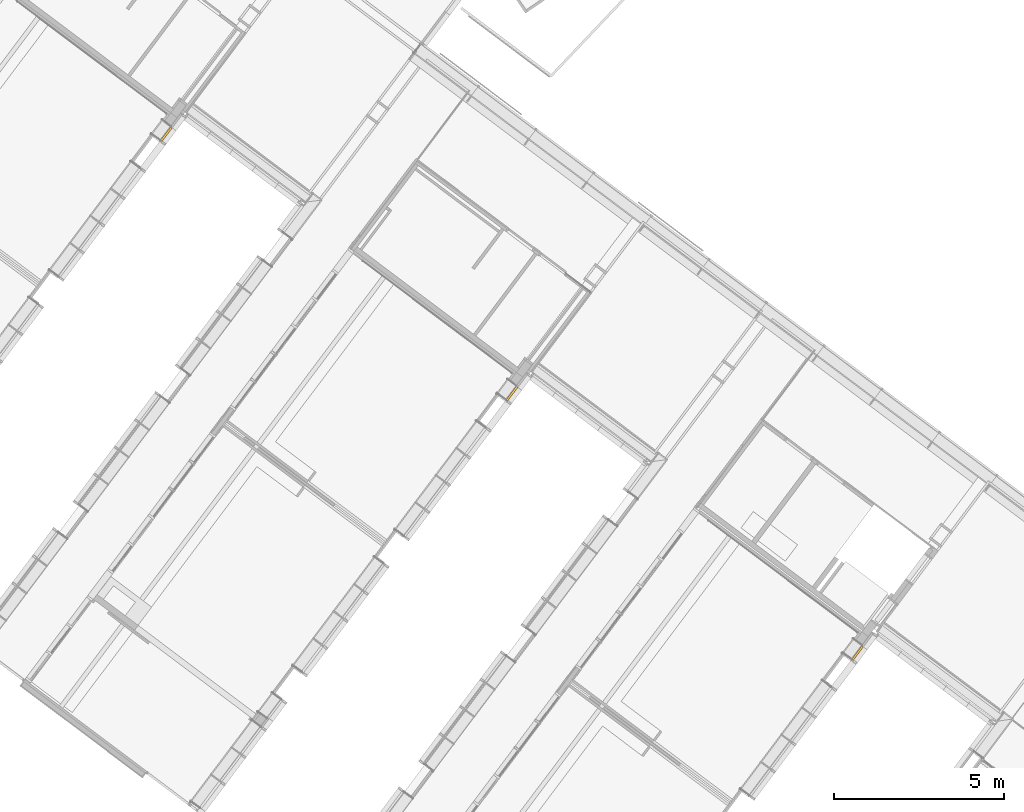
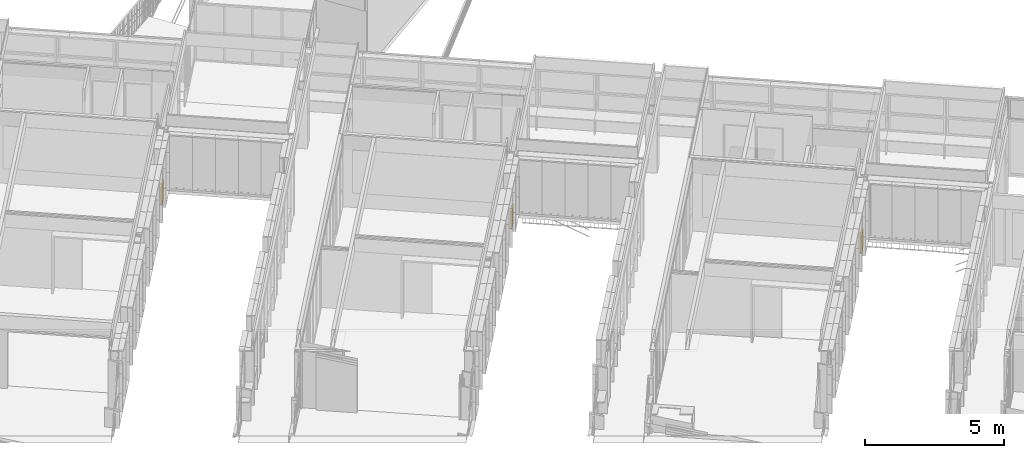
# One storey, part 215 of 243: 3 windows, 3 elements without a shape of their own.
"""IFC2X3 building model written with IfcOpenShell, lengths in metres."""

from ifc_helpers import new_model, entity, si_unit, converted_unit, derived_unit, direction, frame, origin, place, context, subcontext, project, spatial, faceted_brep, source, transform, mapped, material, material_list, type_object, type_shapes, element, aggregate, save


model = new_model("IFC2X3")

# Units and contexts
model_context = context("Model", 3, precision=1e-05, world=origin(), true_north=direction((6.123031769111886e-17, 1.0)))
body_context = subcontext(model_context, "Body", "Model", "MODEL_VIEW")
ifc_project = project(units=[si_unit("LENGTHUNIT", "METRE"), si_unit("AREAUNIT", "SQUARE_METRE"), si_unit("VOLUMEUNIT", "CUBIC_METRE"), converted_unit("PLANEANGLEUNIT", "DEGREE", entity("IfcRatioMeasure", 0.017453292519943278), si_unit("PLANEANGLEUNIT", "RADIAN"), dimensions=[0, 0, 0, 0, 0, 0, 0]), si_unit("MASSUNIT", "GRAM", prefix="KILO"), derived_unit("MASSDENSITYUNIT", [(si_unit("MASSUNIT", "GRAM", prefix="KILO"), 1), (si_unit("LENGTHUNIT", "METRE"), -3)]), derived_unit("IONCONCENTRATIONUNIT", [(si_unit("MASSUNIT", "GRAM", prefix="KILO"), 1), (si_unit("LENGTHUNIT", "METRE"), -3)]), derived_unit("MOMENTOFINERTIAUNIT", [(si_unit("LENGTHUNIT", "METRE"), 4)]), si_unit("TIMEUNIT", "SECOND"), si_unit("FREQUENCYUNIT", "HERTZ"), si_unit("THERMODYNAMICTEMPERATUREUNIT", "DEGREE_CELSIUS"), derived_unit("THERMALTRANSMITTANCEUNIT", [(si_unit("MASSUNIT", "GRAM", prefix="KILO"), 1), (si_unit("THERMODYNAMICTEMPERATUREUNIT", "KELVIN"), -1), (si_unit("TIMEUNIT", "SECOND"), -3)]), derived_unit("THERMALCONDUCTANCEUNIT", [(si_unit("MASSUNIT", "GRAM", prefix="KILO"), 1), (si_unit("THERMODYNAMICTEMPERATUREUNIT", "KELVIN"), -1), (si_unit("TIMEUNIT", "SECOND"), -3), (si_unit("LENGTHUNIT", "METRE"), 1)]), derived_unit("VOLUMETRICFLOWRATEUNIT", [(si_unit("LENGTHUNIT", "METRE"), 3), (si_unit("TIMEUNIT", "SECOND"), -1)]), derived_unit("MASSFLOWRATEUNIT", [(si_unit("MASSUNIT", "GRAM", prefix="KILO"), 1), (si_unit("TIMEUNIT", "SECOND"), -1)]), derived_unit("ROTATIONALFREQUENCYUNIT", [(si_unit("TIMEUNIT", "SECOND"), -1)]), si_unit("ELECTRICCURRENTUNIT", "AMPERE"), si_unit("ELECTRICVOLTAGEUNIT", "VOLT"), si_unit("POWERUNIT", "WATT"), si_unit("FORCEUNIT", "NEWTON", prefix="KILO"), si_unit("ILLUMINANCEUNIT", "LUX"), si_unit("LUMINOUSFLUXUNIT", "LUMEN"), si_unit("LUMINOUSINTENSITYUNIT", "CANDELA"), derived_unit("USERDEFINED", [(si_unit("MASSUNIT", "GRAM", prefix="KILO"), -1), (si_unit("LENGTHUNIT", "METRE"), -2), (si_unit("TIMEUNIT", "SECOND"), 3), (si_unit("LUMINOUSFLUXUNIT", "LUMEN"), 1)]), derived_unit("USERDEFINED", [(si_unit("MASSUNIT", "GRAM", prefix="KILO"), 1), (si_unit("TIMEUNIT", "SECOND"), -3), (si_unit("LENGTHUNIT", "METRE"), 3), (si_unit("ELECTRICCURRENTUNIT", "AMPERE"), -2)]), derived_unit("SOUNDPOWERUNIT", [(si_unit("MASSUNIT", "GRAM", prefix="KILO"), 1), (si_unit("TIMEUNIT", "SECOND"), -3), (si_unit("LENGTHUNIT", "METRE"), 2)]), derived_unit("SOUNDPRESSUREUNIT", [(si_unit("MASSUNIT", "GRAM", prefix="KILO"), 1), (si_unit("LENGTHUNIT", "METRE"), -1), (si_unit("TIMEUNIT", "SECOND"), -2)]), derived_unit("LINEARVELOCITYUNIT", [(si_unit("LENGTHUNIT", "METRE"), 1), (si_unit("TIMEUNIT", "SECOND"), -1)]), si_unit("PRESSUREUNIT", "PASCAL"), derived_unit("USERDEFINED", [(si_unit("MASSUNIT", "GRAM", prefix="KILO"), 1), (si_unit("LENGTHUNIT", "METRE"), -2), (si_unit("TIMEUNIT", "SECOND"), -2)]), derived_unit("LINEARFORCEUNIT", [(si_unit("MASSUNIT", "GRAM", prefix="KILO"), 1), (si_unit("TIMEUNIT", "SECOND"), -2)]), derived_unit("PLANARFORCEUNIT", [(si_unit("MASSUNIT", "GRAM", prefix="KILO"), 1), (si_unit("LENGTHUNIT", "METRE"), -1), (si_unit("TIMEUNIT", "SECOND"), -2)]), derived_unit("SPECIFICHEATCAPACITYUNIT", [(si_unit("THERMODYNAMICTEMPERATUREUNIT", "KELVIN"), -1), (si_unit("LENGTHUNIT", "METRE"), 2), (si_unit("TIMEUNIT", "SECOND"), -2)]), derived_unit("HEATINGVALUEUNIT", [(si_unit("LENGTHUNIT", "METRE"), 2), (si_unit("TIMEUNIT", "SECOND"), -2)]), derived_unit("VAPORPERMEABILITYUNIT", [(si_unit("LENGTHUNIT", "METRE"), -1), (si_unit("TIMEUNIT", "SECOND"), 1)]), derived_unit("DYNAMICVISCOSITYUNIT", [(si_unit("MASSUNIT", "GRAM", prefix="KILO"), 1), (si_unit("TIMEUNIT", "SECOND"), -1), (si_unit("LENGTHUNIT", "METRE"), -1)]), derived_unit("THERMALEXPANSIONCOEFFICIENTUNIT", [(si_unit("THERMODYNAMICTEMPERATUREUNIT", "KELVIN"), -1)]), derived_unit("MODULUSOFELASTICITYUNIT", [(si_unit("MASSUNIT", "GRAM", prefix="KILO"), 1), (si_unit("LENGTHUNIT", "METRE"), -1), (si_unit("TIMEUNIT", "SECOND"), -2)]), derived_unit("ISOTHERMALMOISTURECAPACITYUNIT", [(si_unit("LENGTHUNIT", "METRE"), 3), (si_unit("MASSUNIT", "GRAM", prefix="KILO"), -1)]), derived_unit("MOISTUREDIFFUSIVITYUNIT", [(si_unit("TIMEUNIT", "SECOND"), -1), (si_unit("LENGTHUNIT", "METRE"), 2)])], contexts=[model_context])

# Site, building, storey
site_placement = place(None, frame((0.0, 0.0, 235.0), z_axis=(0.0, 0.0, 1.0), x_axis=(-0.7996477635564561, 0.6004693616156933, 0.0)))
site = spatial("IfcSite", under=ifc_project, at=site_placement, Name="Default", CompositionType="ELEMENT")
building_placement = place(site_placement, origin())
building = spatial("IfcBuilding", under=site, at=building_placement, CompositionType="ELEMENT")
storey_placement = place(building_placement, origin())
storey = spatial("IfcBuildingStorey", under=building, at=storey_placement, Name="P0- Escola", CompositionType="ELEMENT", Elevation=0.0)

# Curtain wall, window
curtain_wall_type = type_object("IfcCurtainWallType", Name="Muro cortina:MC- EXT- MC2", PredefinedType="NOTDEFINED")
curtain_wall_1_placement = place(storey_placement, origin())
curtain_wall_1 = element("IfcCurtainWall", 1, at=curtain_wall_1_placement, inside=storey, type_object=curtain_wall_type, Name="Muro cortina:MC- EXT- MC2", ObjectType="Muro cortina:MC- EXT- MC2")
ifc_material_1 = material(Name="_Vidre")
ifc_material_2 = material(Name="_Alumini- T1- Perfil")
ifc_material_list = material_list([ifc_material_1, ifc_material_2])
window_style = type_object("IfcWindowStyle", Name="MC- Alu- Conjunt vidre fix- 62x60 cm:MC- Alu- Conjunt vidre fix- 62x60 cm", ConstructionType="NOTDEFINED", OperationType="NOTDEFINED", ParameterTakesPrecedence=False, Sizeable=False, material=ifc_material_list)
shared_shape = source(origin(), body_context, "Body", "Brep", [
    faceted_brep([(0.19769239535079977, -0.007600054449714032, 0.048806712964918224), (0.19769239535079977, -0.03160022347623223, 0.048806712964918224), (-0.1976923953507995, -0.03160022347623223, 0.048806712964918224), (-0.1976923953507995, -0.007600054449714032, 0.048806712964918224), (0.19769239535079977, -0.007600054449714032, 0.7387000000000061), (-0.1976923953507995, -0.007600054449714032, 0.7387000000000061), (-0.1976923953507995, -0.03160022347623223, 0.7387000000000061), (0.19769239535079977, -0.03160022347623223, 0.7387000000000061)], [[[0, 1, 2, 3]], [[4, 0, 3, 5]], [[5, 3, 2, 6]], [[6, 2, 1, 7]], [[7, 1, 0, 4]], [[4, 5, 6, 7]]]),
    faceted_brep([(0.24649910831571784, -0.05999999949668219, 0.7877000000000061), (0.24649910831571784, -0.05999999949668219, 0.0), (0.24649910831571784, 0.0, 0.0), (0.24649910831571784, 0.0, 0.7877000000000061), (-0.24649910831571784, 0.0, 0.7877000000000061), (-0.24649910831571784, 0.0, 0.0), (0.18369229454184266, 0.0, 0.724893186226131), (-0.18369229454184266, 0.0, 0.7248931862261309), (-0.18369229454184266, 0.0, 0.06280681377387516), (0.18369229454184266, 0.0, 0.06280681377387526), (-0.24649910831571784, -0.05999999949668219, 0.0), (-0.24649910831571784, -0.05999999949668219, 0.7877000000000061), (-0.18369514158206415, -0.05999999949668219, 0.7248960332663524), (0.18369514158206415, -0.05999999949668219, 0.7248960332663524), (0.18369514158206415, -0.05999999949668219, 0.0628039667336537), (-0.18369514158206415, -0.05999999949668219, 0.0628039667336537), (0.18369514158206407, -0.03160022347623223, 0.7248960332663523), (0.18369514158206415, -0.03160022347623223, 0.0628039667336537), (-0.18369514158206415, -0.03160022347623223, 0.06280396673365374), (-0.18369514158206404, -0.03160022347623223, 0.7248960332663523), (-0.1976923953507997, -0.03160022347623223, 0.7388932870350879), (0.1976923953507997, -0.03160022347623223, 0.7388932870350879), (0.1976923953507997, -0.03160022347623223, 0.048806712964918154), (-0.1976923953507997, -0.03160022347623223, 0.04880671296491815), (0.1976923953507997, -0.007600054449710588, 0.7388932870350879), (0.1976923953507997, -0.007600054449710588, 0.04880671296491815), (-0.1976923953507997, -0.007600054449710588, 0.04880671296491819), (-0.1976923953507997, -0.007600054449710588, 0.7388932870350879), (-0.18369229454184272, -0.007600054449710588, 0.724893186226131), (0.18369229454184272, -0.007600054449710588, 0.724893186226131), (0.18369229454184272, -0.007600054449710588, 0.06280681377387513), (-0.18369229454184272, -0.007600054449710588, 0.06280681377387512)], [[[0, 1, 2, 3]], [[4, 3, 2, 5], [6, 7, 8, 9]], [[1, 10, 5, 2]], [[0, 11, 10, 1], [12, 13, 14, 15]], [[16, 17, 14, 13]], [[17, 18, 15, 14]], [[16, 19, 18, 17], [20, 21, 22, 23]], [[24, 25, 22, 21]], [[25, 26, 23, 22]], [[24, 27, 26, 25], [28, 29, 30, 31]], [[6, 9, 30, 29]], [[9, 8, 31, 30]], [[10, 11, 4, 5]], [[18, 19, 12, 15]], [[26, 27, 20, 23]], [[8, 7, 28, 31]], [[11, 0, 3, 4]], [[19, 16, 13, 12]], [[27, 24, 21, 20]], [[7, 6, 29, 28]]], outer=[[True], [True, False], [True], [True, False], [True], [True], [False, True], [True], [True], [True, False], [True], [True], [True], [True], [True], [True], [True], [True], [True], [True]]),
])
type_shapes(window_style, [shared_shape])
window_1_placement = place(curtain_wall_1_placement, frame((41.04514768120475, -35.6766908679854, 0.03229999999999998), z_axis=(0.0, 0.0, 1.0), x_axis=(0.0, 1.0, 0.0)))
window_1 = element("IfcWindow", 2, at=window_1_placement, type_object=window_style, material=ifc_material_list, Name="MC- Alu- Conjunt vidre fix- 62x60 cm:MC- Alu- Conjunt vidre fix- 62x60 cm", ObjectType="MC- Alu- Conjunt vidre fix- 62x60 cm:MC- Alu- Conjunt vidre fix- 62x60 cm", OverallHeight=0.7877000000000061, OverallWidth=0.49299821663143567, context=body_context, shape_type="MappedRepresentation", body=[
    mapped(shared_shape, transform((0.0, 0.0, 0.0), scale=1.0)),
])
aggregate(curtain_wall_1, [window_1])

curtain_wall_2_placement = place(storey_placement, origin())
curtain_wall_2 = element("IfcCurtainWall", 3, at=curtain_wall_2_placement, inside=storey, type_object=curtain_wall_type, Name="Muro cortina:MC- EXT- MC2", ObjectType="Muro cortina:MC- EXT- MC2")
window_2_placement = place(curtain_wall_2_placement, frame((53.745147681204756, -35.67669086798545, 0.03229999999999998), z_axis=(0.0, 0.0, 1.0), x_axis=(0.0, 1.0, 0.0)))
window_2 = element("IfcWindow", 4, at=window_2_placement, type_object=window_style, material=ifc_material_list, Name="MC- Alu- Conjunt vidre fix- 62x60 cm:MC- Alu- Conjunt vidre fix- 62x60 cm", ObjectType="MC- Alu- Conjunt vidre fix- 62x60 cm:MC- Alu- Conjunt vidre fix- 62x60 cm", OverallHeight=0.7877000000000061, OverallWidth=0.49299821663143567, context=body_context, shape_type="MappedRepresentation", body=[
    mapped(shared_shape, transform((0.0, 0.0, 0.0), scale=1.0)),
])
aggregate(curtain_wall_2, [window_2])

curtain_wall_3_placement = place(storey_placement, origin())
curtain_wall_3 = element("IfcCurtainWall", 5, at=curtain_wall_3_placement, inside=storey, type_object=curtain_wall_type, Name="Muro cortina:MC- EXT- MC2", ObjectType="Muro cortina:MC- EXT- MC2")
window_3_placement = place(curtain_wall_3_placement, frame((66.44514768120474, -35.676690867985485, 0.03229999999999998), z_axis=(0.0, 0.0, 1.0), x_axis=(0.0, 1.0, 0.0)))
window_3 = element("IfcWindow", 6, at=window_3_placement, type_object=window_style, material=ifc_material_list, Name="MC- Alu- Conjunt vidre fix- 62x60 cm:MC- Alu- Conjunt vidre fix- 62x60 cm", ObjectType="MC- Alu- Conjunt vidre fix- 62x60 cm:MC- Alu- Conjunt vidre fix- 62x60 cm", OverallHeight=0.7877000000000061, OverallWidth=0.49299821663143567, context=body_context, shape_type="MappedRepresentation", body=[
    mapped(shared_shape, transform((0.0, 0.0, 0.0), scale=1.0)),
])
aggregate(curtain_wall_3, [window_3])

save(model, "model.ifc")
